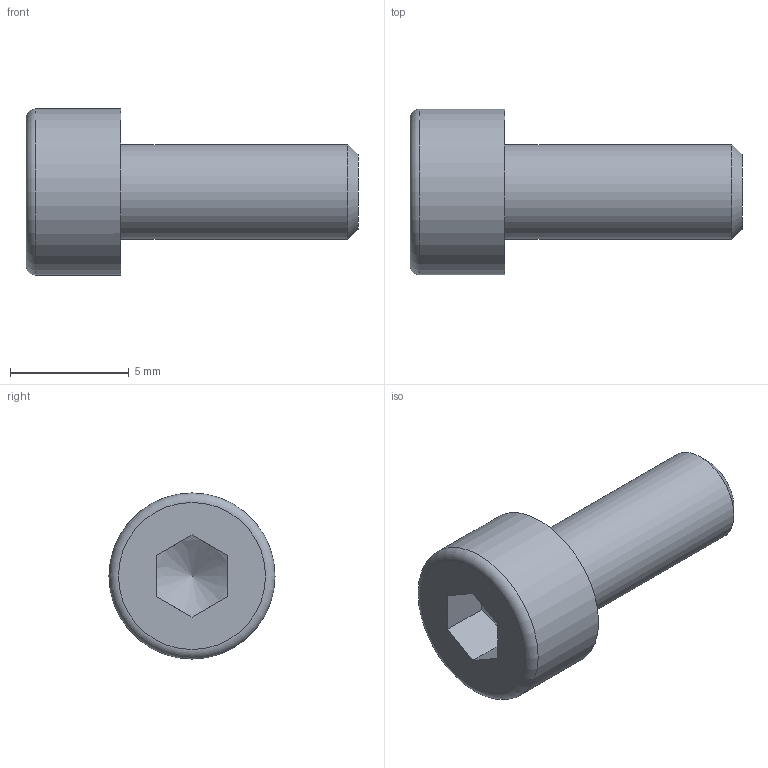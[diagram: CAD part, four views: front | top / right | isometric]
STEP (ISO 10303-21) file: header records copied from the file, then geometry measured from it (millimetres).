
FILE_DESCRIPTION(/* description */ ('6각머리 태핑 나사'),/* implementation_level */ '2;1');
FILE_NAME(/* name */ '',/* time_stamp */ '2024-05-30T17:43:40+09:00',/* author */ ('jhkim'),/* organization */ (''),/* preprocessor_version */ 'ST-DEVELOPER v20',/* originating_system */ 'Autodesk Inventor 2025',/* authorisation */ '');
FILE_SCHEMA (('AUTOMOTIVE_DESIGN { 1 0 10303 214 3 1 1 }'));
Length unit declared in the file: millimetre
Products named in the file (1): 육각 소켓 머리 볼트 
M4x10
Bounding box: 14 x 7 x 7 mm (x, y, z)
Volume: 259.1 mm3; surface area: 306.3 mm2
Topology: 1 solids, 1 shells, 14 faces, 33 edges, 22 vertices
Faces by surface type: plane 9, cone 2, cylinder 2, torus 1
Full cylindrical faces by diameter (mm): 4 x1, 7 x1
Entity records: 437 total; most frequent: CARTESIAN_POINT 83, ORIENTED_EDGE 64, DIRECTION 64, EDGE_CURVE 32, AXIS2_PLACEMENT_3D 24, VERTEX_POINT 22, EDGE_LOOP 16, LINE 16
